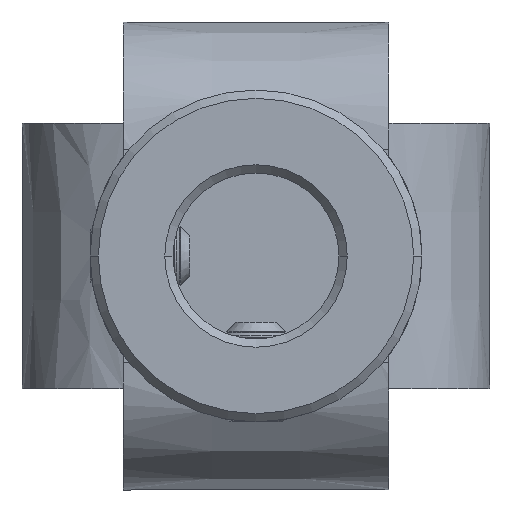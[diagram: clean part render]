
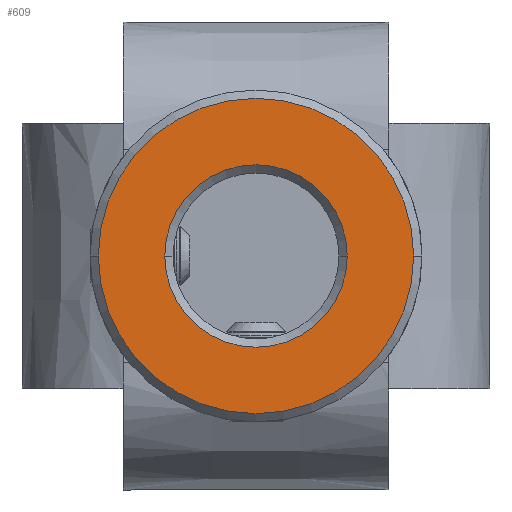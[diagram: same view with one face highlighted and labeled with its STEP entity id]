
A CAD part, front view. The second image highlights one B-rep face of the part: STEP entity #609.
In plain terms, the highlighted planar face has unit normal (0, -1, 0).
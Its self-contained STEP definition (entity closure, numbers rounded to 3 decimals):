
#205 = AXIS2_PLACEMENT_3D ( 'NONE', #6207, #6183, #6302 ) ;
#473 = FACE_OUTER_BOUND ( 'NONE', #934, .T. ) ;
#609 = ADVANCED_FACE ( 'NONE', ( #6752, #473 ), #5529, .T. ) ;
#767 = ORIENTED_EDGE ( 'NONE', *, *, #4442, .T. ) ;
#934 = EDGE_LOOP ( 'NONE', ( #6106, #5108 ) ) ;
#1017 = DIRECTION ( 'NONE',  ( 0., 1., 0. ) ) ;
#1150 = CARTESIAN_POINT ( 'NONE',  ( 5.5, -35.24, 0. ) ) ;
#1173 = VERTEX_POINT ( 'NONE', #5575 ) ;
#1248 = CIRCLE ( 'NONE', #2340, 9.5 ) ;
#1299 = DIRECTION ( 'NONE',  ( 0., -1., 0. ) ) ;
#1707 = CARTESIAN_POINT ( 'NONE',  ( 9.5, -35.24, 0. ) ) ;
#2221 = DIRECTION ( 'NONE',  ( -1., 0., 0. ) ) ;
#2340 = AXIS2_PLACEMENT_3D ( 'NONE', #2605, #1299, #7277 ) ;
#2605 = CARTESIAN_POINT ( 'NONE',  ( 0., -35.24, 0. ) ) ;
#2662 = VERTEX_POINT ( 'NONE', #5654 ) ;
#2810 = CARTESIAN_POINT ( 'NONE',  ( 0., -35.24, 0. ) ) ;
#2818 = AXIS2_PLACEMENT_3D ( 'NONE', #6902, #5496, #2221 ) ;
#2933 = CIRCLE ( 'NONE', #6933, 9.5 ) ;
#3664 = VERTEX_POINT ( 'NONE', #1150 ) ;
#4442 = EDGE_CURVE ( 'NONE', #3664, #1173, #8073, .T. ) ;
#4555 = VERTEX_POINT ( 'NONE', #1707 ) ;
#4767 = EDGE_CURVE ( 'NONE', #2662, #4555, #2933, .T. ) ;
#4788 = DIRECTION ( 'NONE',  ( 0., -1., 0. ) ) ;
#5108 = ORIENTED_EDGE ( 'NONE', *, *, #4767, .T. ) ;
#5169 = EDGE_CURVE ( 'NONE', #4555, #2662, #1248, .T. ) ;
#5496 = DIRECTION ( 'NONE',  ( 0., -1., 0. ) ) ;
#5529 = PLANE ( 'NONE',  #2818 ) ;
#5534 = CIRCLE ( 'NONE', #205, 5.5 ) ;
#5575 = CARTESIAN_POINT ( 'NONE',  ( -5.5, -35.24, 0. ) ) ;
#5654 = CARTESIAN_POINT ( 'NONE',  ( -9.5, -35.24, 0. ) ) ;
#6010 = EDGE_CURVE ( 'NONE', #1173, #3664, #5534, .T. ) ;
#6106 = ORIENTED_EDGE ( 'NONE', *, *, #5169, .T. ) ;
#6183 = DIRECTION ( 'NONE',  ( 0., 1., 0. ) ) ;
#6207 = CARTESIAN_POINT ( 'NONE',  ( 0., -35.24, 0. ) ) ;
#6302 = DIRECTION ( 'NONE',  ( -1., 0., 0. ) ) ;
#6752 = FACE_BOUND ( 'NONE', #7493, .T. ) ;
#6902 = CARTESIAN_POINT ( 'NONE',  ( 0., -35.24, 0. ) ) ;
#6933 = AXIS2_PLACEMENT_3D ( 'NONE', #2810, #4788, #8204 ) ;
#7267 = ORIENTED_EDGE ( 'NONE', *, *, #6010, .T. ) ;
#7277 = DIRECTION ( 'NONE',  ( -1., 0., 0. ) ) ;
#7493 = EDGE_LOOP ( 'NONE', ( #7267, #767 ) ) ;
#7767 = CARTESIAN_POINT ( 'NONE',  ( 0., -35.24, 0. ) ) ;
#7833 = DIRECTION ( 'NONE',  ( -1., 0., 0. ) ) ;
#7955 = AXIS2_PLACEMENT_3D ( 'NONE', #7767, #1017, #7833 ) ;
#8073 = CIRCLE ( 'NONE', #7955, 5.5 ) ;
#8204 = DIRECTION ( 'NONE',  ( -1., 0., 0. ) ) ;
